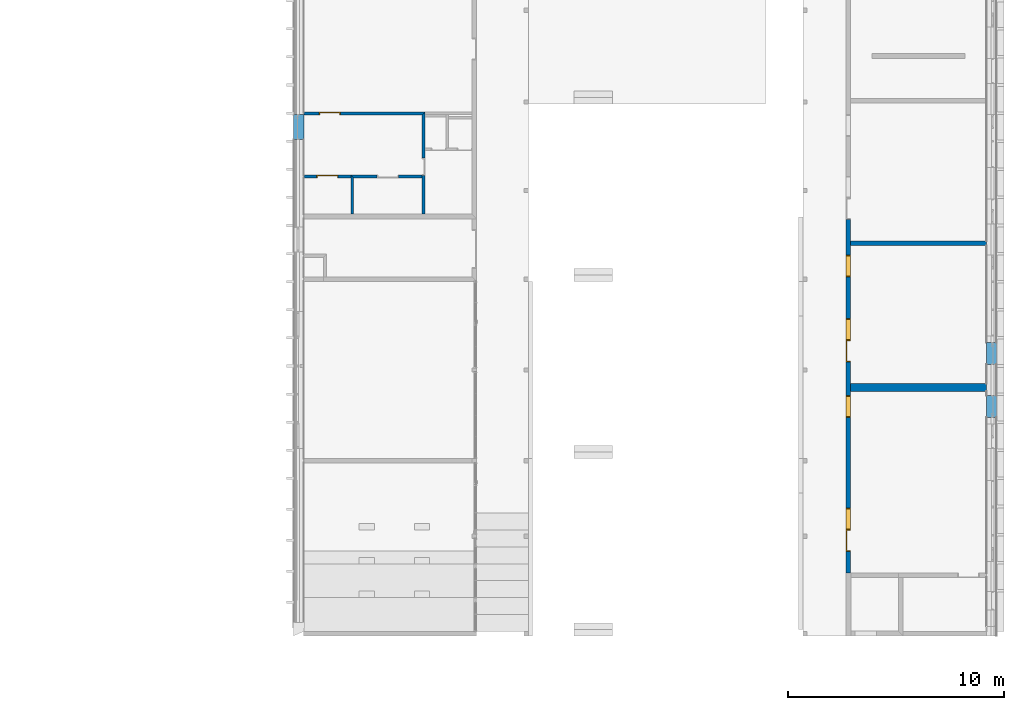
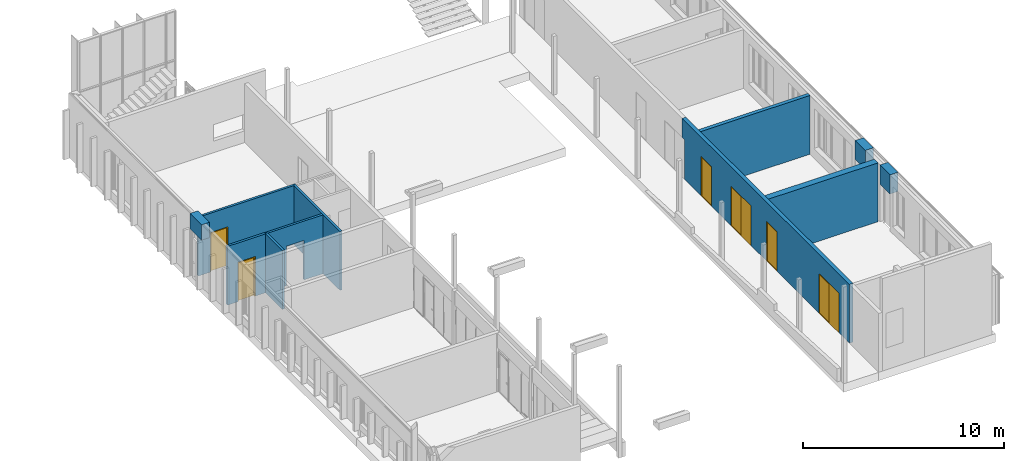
# One storey, part 9 of 65: 11 walls, 4 doors, 4 windows, 14 openings.
"""IFC2X3 building model written with IfcOpenShell, lengths in millimetres."""

import ifcopenshell
import ifcopenshell.guid

model = None  # the IFC model being written
_history = None  # IfcOwnerHistory: only IFC2X3 demands one
_inside = {}  # id of a spatial element -> (the spatial element, [elements in it])
_under = {}  # id of a project, library or spatial element -> (it, [spatial elements below it])
_declared = {}  # id of a project -> (the project, [libraries it declares])
_typed = {}  # id of a type object -> (the type object, [elements of that type])
_made_of = {}  # id of a material, layer set ... -> (it, [elements and type objects made of it])


def new_model(schema):
    """Start an empty IFC model of exactly this schema.

    Asked for "IFC4X3", IfcOpenShell would pick the latest addendum, in which some entities
    have other attributes; the version numbers below select the first issue.
    IFC2X3 requires an IfcOwnerHistory on every rooted entity: one is made here for all.
    """
    global model, _history
    if schema == "IFC4X3":
        model = ifcopenshell.file(schema_version=(4, 3, 0, 0))
    else:
        model = ifcopenshell.file(schema=schema)
    _inside.clear()
    _under.clear()
    _declared.clear()
    _typed.clear()
    _made_of.clear()
    _history = None
    if model.schema == "IFC2X3":
        org = make("IfcOrganization", Name="unknown")
        user = make(
            "IfcPersonAndOrganization",
            ThePerson=make("IfcPerson", FamilyName="unknown"),
            TheOrganization=org,
        )
        app = make(
            "IfcApplication",
            ApplicationDeveloper=org,
            Version="unknown",
            ApplicationFullName="unknown",
            ApplicationIdentifier="unknown",
        )
        _history = make(
            "IfcOwnerHistory",
            OwningUser=user,
            OwningApplication=app,
            ChangeAction="ADDED",
            CreationDate=0,
        )
    return model


def make(cls, **values):
    """One entity of the class cls with the attributes given. An attribute that is None is left unset."""
    return model.create_entity(
        cls, **{name: value for name, value in values.items() if value is not None}
    )


def entity(cls, *values):
    """Any entity or typed value of the class cls, its attributes in the order of the schema. None: left unset."""
    e = model.create_entity(cls)
    for i, value in enumerate(values):
        if value is not None:
            e[i] = value
    return e


def rooted(cls, **values):
    """An entity with a GlobalId (a new one), such as an element, a storey or a relation."""
    return make(cls, GlobalId=ifcopenshell.guid.new(), OwnerHistory=_history, **values)


def si_unit(unit_type, name, prefix=None):
    """IfcSIUnit, for example si_unit("LENGTHUNIT", "METRE", prefix="MILLI")."""
    return make("IfcSIUnit", UnitType=unit_type, Prefix=prefix, Name=name)


def converted_unit(unit_type, name, factor, base, dimensions=None, offset=None):
    """IfcConversionBasedUnit, such as the inch: factor (a typed value) times the base unit."""
    return make(
        "IfcConversionBasedUnit"
        if offset is None
        else "IfcConversionBasedUnitWithOffset",
        ConversionOffset=offset,
        Dimensions=None
        if dimensions is None
        else entity("IfcDimensionalExponents", *dimensions),
        UnitType=unit_type,
        Name=name,
        ConversionFactor=make(
            "IfcMeasureWithUnit", ValueComponent=factor, UnitComponent=base
        ),
    )


def derived_unit(unit_type, elements):
    """IfcDerivedUnit: a product of units, each with its exponent."""
    return make(
        "IfcDerivedUnit",
        Elements=[
            make("IfcDerivedUnitElement", Unit=unit, Exponent=power)
            for unit, power in elements
        ],
        UnitType=unit_type,
    )


def money_unit(currency):
    """IfcMonetaryUnit."""
    return make("IfcMonetaryUnit", Currency=currency)


def assignment(units):
    """IfcUnitAssignment: the units of a project."""
    return None if units is None else make("IfcUnitAssignment", Units=units)


def point(xyz):
    """IfcCartesianPoint."""
    return None if xyz is None else make("IfcCartesianPoint", Coordinates=xyz)


def direction(xyz):
    """IfcDirection."""
    return None if xyz is None else make("IfcDirection", DirectionRatios=xyz)


def frame(location, z_axis=None, x_axis=None):
    """IfcAxis2Placement3D, a coordinate frame: its origin and axes. An axis left out is left unset."""
    return make(
        "IfcAxis2Placement3D",
        Location=point(location),
        Axis=direction(z_axis),
        RefDirection=direction(x_axis),
    )


def frame_2d(location, x_axis=None):
    """IfcAxis2Placement2D, a coordinate frame in the plane: its origin and x axis."""
    return make(
        "IfcAxis2Placement2D", Location=point(location), RefDirection=direction(x_axis)
    )


def origin_with_axes():
    """The frame at (0, 0, 0) with the z axis (0, 0, 1) and the x axis (1, 0, 0) written out."""
    return frame((0.0, 0.0, 0.0), z_axis=(0.0, 0.0, 1.0), x_axis=(1.0, 0.0, 0.0))


def origin_2d_with_axis():
    """The frame at (0, 0) in the plane with the x axis (1, 0) written out."""
    return frame_2d((0.0, 0.0), x_axis=(1.0, 0.0))


def place(relative_to, where):
    """IfcLocalPlacement: puts the frame where relative to a parent placement (None: the world)."""
    return make(
        "IfcLocalPlacement", PlacementRelTo=relative_to, RelativePlacement=where
    )


def context(
    kind, dimensions, precision=None, world=None, true_north=None, identifier=None
):
    """IfcGeometricRepresentationContext, for example the 3D "Model" context."""
    return make(
        "IfcGeometricRepresentationContext",
        ContextIdentifier=identifier,
        ContextType=kind,
        CoordinateSpaceDimension=dimensions,
        Precision=precision,
        WorldCoordinateSystem=world,
        TrueNorth=true_north,
    )


def subcontext(parent, identifier, kind, view, scale=None):
    """IfcGeometricRepresentationSubContext, for example "Body" below "Model"."""
    return make(
        "IfcGeometricRepresentationSubContext",
        ContextIdentifier=identifier,
        ContextType=kind,
        ParentContext=parent,
        TargetScale=scale,
        TargetView=view,
    )


def project(units=None, contexts=None):
    """IfcProject with its units and contexts."""
    return rooted(
        "IfcProject",
        Name="project",
        RepresentationContexts=contexts,
        UnitsInContext=assignment(units),
    )


def spatial(cls, under=None, at=None, **own):
    """A site, building, storey or space (cls), placed at a placement, below another one or the project."""
    s = rooted(cls, ObjectPlacement=at, **own)
    if under is not None:
        _under.setdefault(under.id(), (under, []))[1].append(s)
    return s


def polyline(points):
    """IfcPolyline through the points."""
    return make("IfcPolyline", Points=[point(p) for p in points])


def profile(cls, at=None, kind="AREA", **sizes):
    """A parametric profile (cls). Its sizes go by their IFC names, for example OverallWidth=200.0."""
    return make(cls, ProfileType=kind, Position=at, **sizes)


def rectangle(**sizes):
    """IfcRectangleProfileDef."""
    return profile("IfcRectangleProfileDef", **sizes)


def outline(outer, holes=None, kind="AREA"):
    """IfcArbitraryClosedProfileDef: a profile drawn as a closed curve; with holes, ...WithVoids."""
    if holes is None:
        return make("IfcArbitraryClosedProfileDef", ProfileType=kind, OuterCurve=outer)
    return make(
        "IfcArbitraryProfileDefWithVoids",
        ProfileType=kind,
        OuterCurve=outer,
        InnerCurves=holes,
    )


def extrude(swept, where, along, depth):
    """IfcExtrudedAreaSolid: the profile swept, set in the frame where, extruded along a direction by depth."""
    return make(
        "IfcExtrudedAreaSolid",
        SweptArea=swept,
        Position=where,
        ExtrudedDirection=direction(along),
        Depth=depth,
    )


def faces_of(points, faces, orient=None, outer=None):
    """IfcFace entities. A face is a list of loops; a loop is a list of indices into points, from 0.

    orient and outer hold one flag for each loop. By default every Orientation is true, the
    first loop of a face is its IfcFaceOuterBound and the others are IfcFaceBound.
    """
    made = []
    for i, loops in enumerate(faces):
        bounds = []
        for j, loop in enumerate(loops):
            is_outer = j == 0 if outer is None else outer[i][j]
            bounds.append(
                make(
                    "IfcFaceOuterBound" if is_outer else "IfcFaceBound",
                    Bound=make("IfcPolyLoop", Polygon=[points[k] for k in loop]),
                    Orientation=True if orient is None else orient[i][j],
                )
            )
        made.append(make("IfcFace", Bounds=bounds))
    return made


def open_shell(faces, orient=None, outer=None):
    """The faces of one IfcOpenShell. surface_model builds it on its shared points."""
    return ("IfcOpenShell", faces, orient, outer)


def faceted_brep(points, faces, orient=None, outer=None, voids=None):
    """IfcFacetedBrep: a solid bounded by flat faces; with voids (closed shells), ...WithVoids."""
    shared = [point(p) for p in points]
    hull = make("IfcClosedShell", CfsFaces=faces_of(shared, faces, orient, outer))
    if voids is None:
        return make("IfcFacetedBrep", Outer=hull)
    return make(
        "IfcFacetedBrepWithVoids",
        Outer=hull,
        Voids=[
            make(cls, CfsFaces=faces_of(shared, fs, o, b)) for cls, fs, o, b in voids
        ],
    )


def surface_model(cls, points, shells):
    """IfcFaceBasedSurfaceModel or IfcShellBasedSurfaceModel (cls): surfaces that need not close."""
    shared = [point(p) for p in points]
    made = [make(c, CfsFaces=faces_of(shared, fs, o, b)) for c, fs, o, b in shells]
    if cls == "IfcFaceBasedSurfaceModel":
        return make(cls, FbsmFaces=made)
    return make(cls, SbsmBoundary=made)


def shape(context_of_items, identifier, shape_type, items):
    """IfcShapeRepresentation: the items that make up one representation, for example the "Body"."""
    return make(
        "IfcShapeRepresentation",
        ContextOfItems=context_of_items,
        RepresentationIdentifier=identifier,
        RepresentationType=shape_type,
        Items=items,
    )


def source(mapping_origin, context_of_items, identifier, shape_type, items):
    """IfcRepresentationMap: a shape defined once, which mapped items show again and again."""
    return make(
        "IfcRepresentationMap",
        MappingOrigin=mapping_origin,
        MappedRepresentation=shape(context_of_items, identifier, shape_type, items),
    )


def transform(
    local_origin,
    x_axis=None,
    y_axis=None,
    z_axis=None,
    scale=None,
    scale2=None,
    scale3=None,
    uniform=True,
):
    """IfcCartesianTransformationOperator3D, or its non-uniform kind. x_axis, y_axis, z_axis: its Axis1, 2, 3."""
    if uniform:
        return make(
            "IfcCartesianTransformationOperator3D",
            Axis1=direction(x_axis),
            Axis2=direction(y_axis),
            LocalOrigin=point(local_origin),
            Scale=scale,
            Axis3=direction(z_axis),
        )
    return make(
        "IfcCartesianTransformationOperator3DnonUniform",
        Axis1=direction(x_axis),
        Axis2=direction(y_axis),
        LocalOrigin=point(local_origin),
        Scale=scale,
        Axis3=direction(z_axis),
        Scale2=scale2,
        Scale3=scale3,
    )


def mapped(mapping_source, mapping_target):
    """IfcMappedItem: shows the shape of a source again, moved by a transform."""
    return make(
        "IfcMappedItem", MappingSource=mapping_source, MappingTarget=mapping_target
    )


def material(Name=None, Category=None):
    """IfcMaterial."""
    return make("IfcMaterial", Name=Name, Category=Category)


def layer(
    of_material, thickness, ventilated=None, Name=None, Category=None, Priority=None
):
    """IfcMaterialLayer: one layer of a wall or slab, of a material (None: an air gap)."""
    return make(
        "IfcMaterialLayer",
        Material=of_material,
        LayerThickness=thickness,
        IsVentilated=ventilated,
        Name=Name,
        Category=Category,
        Priority=Priority,
    )


def layer_set(layers, Name=None):
    """IfcMaterialLayerSet."""
    return make("IfcMaterialLayerSet", MaterialLayers=layers, LayerSetName=Name)


def layer_usage(for_layer_set, set_direction, sense, offset, extent=None):
    """IfcMaterialLayerSetUsage: how a layer set lies in its element."""
    return make(
        "IfcMaterialLayerSetUsage",
        ForLayerSet=for_layer_set,
        LayerSetDirection=set_direction,
        DirectionSense=sense,
        OffsetFromReferenceLine=offset,
        ReferenceExtent=extent,
    )


def made_of(thing, what):
    """Note that an element or type object is made of a material, layer set ...; save() writes the relation."""
    if what is not None:
        _made_of.setdefault(what.id(), (what, []))[1].append(thing)
    return thing


def type_object(cls, material=None, **own):
    """A type object (cls), such as IfcWallType, which elements share."""
    return made_of(rooted(cls, **own), material)


def element(
    cls,
    number,
    at=None,
    inside=None,
    cuts=None,
    type_object=None,
    material=None,
    context=None,
    identifier="Body",
    shape_type=None,
    held_by="IfcProductDefinitionShape",
    body=None,
    shapes=None,
    **own,
):
    """One element of the class cls, such as IfcWall. Its Tag is "e" and its number.

    at: its placement. inside: the storey or other place that contains it. cuts: it is an
    opening in that element (IfcRelVoidsElement). A single representation is given by context,
    identifier, shape_type and body (its items); several are given by shapes. held_by: the class
    of the entity that holds the representations. save() writes the other relations.
    """
    e = rooted(cls, Tag="e%d" % number, ObjectPlacement=at, **own)
    if body is not None:
        shapes = [shape(context, identifier, shape_type, body)]
    if shapes is not None:
        e.Representation = make(held_by, Representations=shapes)
    if inside is not None:
        _inside.setdefault(inside.id(), (inside, []))[1].append(e)
    if cuts is not None:
        rooted(
            "IfcRelVoidsElement", RelatingBuildingElement=cuts, RelatedOpeningElement=e
        )
    if type_object is not None:
        _typed.setdefault(type_object.id(), (type_object, []))[1].append(e)
    return made_of(e, material)


def fill(opening, filler):
    """IfcRelFillsElement: the door or window that sits in an opening."""
    return rooted(
        "IfcRelFillsElement",
        RelatingOpeningElement=opening,
        RelatedBuildingElement=filler,
    )


def aggregate(whole, parts):
    """IfcRelAggregates: a whole, such as a stair, and the parts it consists of."""
    return rooted("IfcRelAggregates", RelatingObject=whole, RelatedObjects=parts)


def save(model, path):
    """Write the relations noted so far, then the file.

    IfcRelAggregates (storeys below a building ...), IfcRelContainedInSpatialStructure (elements
    in a storey), IfcRelDefinesByType, IfcRelAssociatesMaterial and IfcRelDeclares: one each for
    every whole, place, type object, material and project.
    """
    for whole, parts in _under.values():
        aggregate(whole, parts)
    for where, things in _inside.values():
        rooted(
            "IfcRelContainedInSpatialStructure",
            RelatedElements=things,
            RelatingStructure=where,
        )
    for kind, things in _typed.values():
        rooted("IfcRelDefinesByType", RelatedObjects=things, RelatingType=kind)
    for what, things in _made_of.values():
        rooted("IfcRelAssociatesMaterial", RelatedObjects=things, RelatingMaterial=what)
    for by, libraries in _declared.values():
        rooted("IfcRelDeclares", RelatingContext=by, RelatedDefinitions=libraries)
    model.write(path)


model = new_model("IFC2X3")

# Units and contexts
model_context = context("Model", 3, precision=0.01, world=origin_with_axes(), true_north=direction((0.0, 1.0)))
body_context = subcontext(model_context, "Body", "Model", "MODEL_VIEW")
ifc_project = project(units=[si_unit("LENGTHUNIT", "METRE", prefix="MILLI"), si_unit("AREAUNIT", "SQUARE_METRE"), si_unit("VOLUMEUNIT", "CUBIC_METRE"), converted_unit("PLANEANGLEUNIT", "DEGREE", entity("IfcPlaneAngleMeasure", 0.0174532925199), si_unit("PLANEANGLEUNIT", "RADIAN"), dimensions=[0, 0, 0, 0, 0, 0, 0]), si_unit("SOLIDANGLEUNIT", "STERADIAN"), money_unit("EUR"), converted_unit("TIMEUNIT", "Year", entity("IfcTimeMeasure", 31556926.0), si_unit("TIMEUNIT", "SECOND"), dimensions=[0, 0, 1, 0, 0, 0, 0]), si_unit("MASSUNIT", "GRAM", prefix="KILO"), si_unit("THERMODYNAMICTEMPERATUREUNIT", "DEGREE_CELSIUS"), si_unit("LUMINOUSINTENSITYUNIT", "LUMEN"), si_unit("ENERGYUNIT", "JOULE", prefix="MEGA"), derived_unit("THERMALCONDUCTANCEUNIT", [(si_unit("POWERUNIT", "WATT"), 1), (si_unit("LENGTHUNIT", "METRE"), -1), (si_unit("THERMODYNAMICTEMPERATUREUNIT", "KELVIN"), -1)]), derived_unit("SPECIFICHEATCAPACITYUNIT", [(si_unit("ENERGYUNIT", "JOULE"), 1), (si_unit("MASSUNIT", "GRAM", prefix="KILO"), -1), (si_unit("THERMODYNAMICTEMPERATUREUNIT", "KELVIN"), -1)]), derived_unit("MASSDENSITYUNIT", [(si_unit("MASSUNIT", "GRAM", prefix="KILO"), 1), (si_unit("VOLUMEUNIT", "CUBIC_METRE"), -1)])], contexts=[model_context])

# Site, building, storey
site_placement = place(None, origin_with_axes())
site = spatial("IfcSite", under=ifc_project, at=site_placement, Name="Puškini 31, Narva", CompositionType="ELEMENT")
building_placement = place(site_placement, origin_with_axes())
building = spatial("IfcBuilding", under=site, at=building_placement, Name="Narva Riigigümnaasium", CompositionType="ELEMENT")
storey_placement = place(building_placement, frame((0.0, 0.0, -1320.0), z_axis=(0.0, 0.0, 1.0), x_axis=(1.0, 0.0, 0.0)))
storey = spatial("IfcBuildingStorey", under=building, at=storey_placement, Name="1.korrus -1.32", CompositionType="ELEMENT", Elevation=-1320.0)

# Wall, opening
ifc_material_1 = material(Name="fassaadiplaat")
ifc_layer_1 = layer(ifc_material_1, 8.0, ventilated="UNKNOWN")
ifc_material_2 = material(Name="Salto-roovitus")
ifc_layer_2 = layer(ifc_material_2, 50.0, ventilated="UNKNOWN")
ifc_material_3 = material(Name="Salto-PIR soojustus")
ifc_layer_3 = layer(ifc_material_3, 50.0, ventilated="UNKNOWN")
ifc_layer_4 = layer(ifc_material_3, 150.0, ventilated="UNKNOWN")
ifc_material_4 = material(Name="Betoon element")
ifc_layer_5 = layer(ifc_material_4, 200.0, ventilated="UNKNOWN")
ifc_material_5 = material(Name="Salto-siseviimistlus-seinad")
ifc_layer_6 = layer(ifc_material_5, 10.0, ventilated="UNKNOWN")
ifc_layer_set_1 = layer_set([ifc_layer_1, ifc_layer_2, ifc_layer_3, ifc_layer_4, ifc_layer_5, ifc_layer_6], Name="G-VS-01")
ifc_layer_usage_1 = layer_usage(ifc_layer_set_1, "AXIS2", "NEGATIVE", 458.0)
wall_type_1 = type_object("IfcWallType", Name="G-VS-01 468", PredefinedType="NOTDEFINED")
wall_1_placement = place(storey_placement, frame((54000.000001, 170110.151272, 0.0), z_axis=(0.0, 0.0, 1.0), x_axis=(0.0, -1.0, 0.0)))
wall_1 = element("IfcWallStandardCase", 1, at=wall_1_placement, inside=storey, type_object=wall_type_1, material=ifc_layer_usage_1, Name="Välissein", context=body_context, shape_type="SweptSolid", body=[
    extrude(outline(polyline([(0.0, -10.0), (1000.0, -10.0), (1000.0, 458.0), (0.0, 458.0), (0.0, -10.0)])), origin_with_axes(), (0.0, 0.0, 1.0), 3559.82248474),
])
opening_1_placement = place(wall_1_placement, frame((500.0, 0.0, 0.0), z_axis=(0.0, 0.0, 1.0), x_axis=(1.0, 0.0, 0.0)))
element("IfcOpeningElement", 2, at=opening_1_placement, cuts=wall_1, Name="G-VU-05", context=body_context, shape_type="SweptSolid", body=[
    extrude(rectangle(XDim=1000.0, YDim=2400.0, at=origin_2d_with_axis()), frame((0.0, 308.0, 1200.0), z_axis=(0.0, -1.0, 0.0), x_axis=(-1.0, 0.0, 0.0)), (0.0, 0.0, 1.0), 786.0),
    extrude(rectangle(XDim=1000.0, YDim=2400.0, at=origin_2d_with_axis()), frame((0.0, 308.0, 1200.0), z_axis=(0.0, 1.0, 0.0), x_axis=(-1.0, 0.0, 0.0)), (0.0, 0.0, 1.0), 618.0),
])

wall_2_placement = place(storey_placement, frame((54000.000001, 172560.151272, 0.0), z_axis=(0.0, 0.0, 1.0), x_axis=(0.0, -1.0, 0.0)))
wall_2 = element("IfcWallStandardCase", 3, at=wall_2_placement, inside=storey, type_object=wall_type_1, material=ifc_layer_usage_1, Name="Välissein", context=body_context, shape_type="SweptSolid", body=[
    extrude(outline(polyline([(0.0, -10.0), (1000.0, -10.0), (1000.0, 458.0), (0.0, 458.0), (0.0, -10.0)])), origin_with_axes(), (0.0, 0.0, 1.0), 3559.82248474),
])
opening_2_placement = place(wall_2_placement, frame((500.0, 0.0, 0.0), z_axis=(0.0, 0.0, 1.0), x_axis=(1.0, 0.0, 0.0)))
element("IfcOpeningElement", 4, at=opening_2_placement, cuts=wall_2, Name="G-VU-04", context=body_context, shape_type="SweptSolid", body=[
    extrude(rectangle(XDim=1000.0, YDim=2400.0, at=origin_2d_with_axis()), frame((0.0, 308.0, 1200.0), z_axis=(0.0, 1.0, 0.0), x_axis=(1.0, 0.0, 0.0)), (0.0, 0.0, -1.0), 786.0),
    extrude(rectangle(XDim=1000.0, YDim=2400.0, at=origin_2d_with_axis()), frame((0.0, 308.0, 1200.0), z_axis=(0.0, -1.0, 0.0), x_axis=(1.0, 0.0, 0.0)), (0.0, 0.0, -1.0), 618.0),
])

wall_3_placement = place(storey_placement, frame((22399.9999985, 181960.149991, 0.0), z_axis=(0.0, 0.0, 1.0), x_axis=(0.0, 1.0, 0.0)))
wall_3 = element("IfcWallStandardCase", 5, at=wall_3_placement, inside=storey, type_object=wall_type_1, material=ifc_layer_usage_1, Name="Välissein", context=body_context, shape_type="SweptSolid", body=[
    extrude(outline(polyline([(0.0, -10.0), (1150.0, -10.0), (1150.0, 458.0), (0.0, 458.0), (0.0, -10.0)])), origin_with_axes(), (0.0, 0.0, 1.0), 3960.0),
])
opening_3_placement = place(wall_3_placement, frame((575.0, 0.0, 0.0), z_axis=(0.0, 0.0, 1.0), x_axis=(1.0, 0.0, 0.0)))
element("IfcOpeningElement", 6, at=opening_3_placement, cuts=wall_3, Name="G-VU-06", context=body_context, shape_type="SweptSolid", body=[
    extrude(rectangle(XDim=1150.0, YDim=3030.0, at=origin_2d_with_axis()), frame((0.0, 308.0, 1515.0), z_axis=(0.0, -1.0, 0.0), x_axis=(-1.0, 0.0, 0.0)), (0.0, 0.0, 1.0), 786.0),
    extrude(rectangle(XDim=1150.0, YDim=3030.0, at=origin_2d_with_axis()), frame((0.0, 308.0, 1515.0), z_axis=(0.0, 1.0, 0.0), x_axis=(-1.0, 0.0, 0.0)), (0.0, 0.0, 1.0), 618.0),
])

# Wall, openings, windows, doors
ifc_material_6 = material(Name="siseviimistlus-seinad")
ifc_layer_7 = layer(ifc_material_6, 10.0, ventilated="UNKNOWN")
ifc_layer_set_2 = layer_set([ifc_layer_5, ifc_layer_7], Name="G-SS-01-02")
ifc_layer_usage_2 = layer_usage(ifc_layer_set_2, "AXIS2", "POSITIVE", 0.0)
wall_type_2 = type_object("IfcWallType", Name="G-SS-01-02 210", PredefinedType="NOTDEFINED")
wall_4_placement = place(storey_placement, frame((47499.9999944, 178500.00001, 0.0), z_axis=(0.0, 0.0, 1.0), x_axis=(0.0, -1.0, 0.0)))
wall_4 = element("IfcWallStandardCase", 7, at=wall_4_placement, inside=storey, type_object=wall_type_2, material=ifc_layer_usage_2, Name="Sisesein", context=body_context, shape_type="SweptSolid", body=[
    extrude(outline(polyline([(0.0, 0.0), (16600.0000105, 0.0), (16600.0000105, 210.0), (0.0, 210.0), (0.0, 0.0)])), origin_with_axes(), (0.0, 0.0, 1.0), 3565.0),
])
opening_4_placement = place(wall_4_placement, frame((2389.89562229, 0.0, 0.0), z_axis=(0.0, 0.0, 1.0), x_axis=(1.0, 0.0, 0.0)))
opening_4 = element("IfcOpeningElement", 8, at=opening_4_placement, cuts=wall_4, Name="G-SA-2", context=body_context, shape_type="SweptSolid", body=[
    extrude(rectangle(XDim=1000.0, YDim=2400.0, at=origin_2d_with_axis()), frame((0.0, 210.0, 1200.0), z_axis=(0.0, -1.0, 0.0), x_axis=(-1.0, 0.0, 0.0)), (0.0, 0.0, 1.0), 630.0),
])
opening_5_placement = place(wall_4_placement, frame((14090.0000105, 0.0, 0.0), z_axis=(0.0, 0.0, 1.0), x_axis=(1.0, 0.0, 0.0)))
opening_5 = element("IfcOpeningElement", 9, at=opening_5_placement, cuts=wall_4, Name="G-SA-3", context=body_context, shape_type="SweptSolid", body=[
    extrude(rectangle(XDim=1000.0, YDim=2400.0, at=origin_2d_with_axis()), frame((0.0, 210.0, 1200.0), z_axis=(0.0, -1.0, 0.0), x_axis=(-1.0, 0.0, 0.0)), (0.0, 0.0, 1.0), 630.0),
])
opening_6_placement = place(wall_4_placement, frame((8889.84873854, 0.0, 0.0), z_axis=(0.0, 0.0, 1.0), x_axis=(1.0, 0.0, 0.0)))
opening_6 = element("IfcOpeningElement", 10, at=opening_6_placement, cuts=wall_4, Name="G-SA-3", context=body_context, shape_type="SweptSolid", body=[
    extrude(rectangle(XDim=1000.0, YDim=2400.0, at=origin_2d_with_axis()), frame((0.0, 210.0, 1200.0), z_axis=(0.0, -1.0, 0.0), x_axis=(-1.0, 0.0, 0.0)), (0.0, 0.0, 1.0), 630.0),
])
opening_7_placement = place(wall_4_placement, frame((5330.00002569, 0.0, 0.0), z_axis=(0.0, 0.0, 1.0), x_axis=(1.0, 0.0, 0.0)))
opening_7 = element("IfcOpeningElement", 11, at=opening_7_placement, cuts=wall_4, Name="G-SA-2", context=body_context, shape_type="SweptSolid", body=[
    extrude(rectangle(XDim=1000.0, YDim=2400.0, at=origin_2d_with_axis()), frame((0.0, 210.0, 1200.0), z_axis=(0.0, -1.0, 0.0), x_axis=(-1.0, 0.0, 0.0)), (0.0, 0.0, 1.0), 630.0),
])
opening_8_placement = place(wall_4_placement, frame((15090.0000105, 0.0, 0.0), z_axis=(0.0, 0.0, 1.0), x_axis=(1.0, 0.0, 0.0)))
opening_8 = element("IfcOpeningElement", 12, at=opening_8_placement, cuts=wall_4, Name="G-SU-013", context=body_context, shape_type="SweptSolid", body=[
    extrude(rectangle(XDim=1000.0, YDim=2400.0, at=origin_2d_with_axis()), frame((0.0, 210.0, 1200.0), z_axis=(0.0, -1.0, 0.0), x_axis=(-1.0, 0.0, 0.0)), (0.0, 0.0, 1.0), 630.0),
])
opening_9_placement = place(wall_4_placement, frame((6330.00002569, 0.0, 0.0), z_axis=(0.0, 0.0, 1.0), x_axis=(1.0, 0.0, 0.0)))
opening_9 = element("IfcOpeningElement", 13, at=opening_9_placement, cuts=wall_4, Name="G-SU-012", context=body_context, shape_type="SweptSolid", body=[
    extrude(rectangle(XDim=1000.0, YDim=2400.0, at=origin_2d_with_axis()), frame((0.0, 210.0, 1200.0), z_axis=(0.0, -1.0, 0.0), x_axis=(-1.0, 0.0, 0.0)), (0.0, 0.0, 1.0), 630.0),
])
opening_10_placement = place(wall_4_placement, frame((-259.999974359, 0.0, 0.0), z_axis=(0.0, 0.0, 1.0), x_axis=(1.0, 0.0, 0.0)))
element("IfcOpeningElement", 14, at=opening_10_placement, cuts=wall_4, Name="ava", context=body_context, shape_type="SweptSolid", body=[
    extrude(rectangle(XDim=1000.0, YDim=2400.0, at=origin_2d_with_axis()), frame((0.0, 0.0, 1200.0), z_axis=(0.0, 1.0, 0.0), x_axis=(1.0, 0.0, 0.0)), (0.0, 0.0, -1.0), 210.0),
    extrude(rectangle(XDim=1000.0, YDim=2400.0, at=origin_2d_with_axis()), frame((0.0, 0.0, 1200.0), z_axis=(0.0, -1.0, 0.0), x_axis=(1.0, 0.0, 0.0)), (0.0, 0.0, -1.0), 210.0),
])
window_style = type_object("IfcWindowStyle", Name="Window 23", ConstructionType="NOTDEFINED", OperationType="SINGLE_PANEL", ParameterTakesPrecedence=False, Sizeable=False)
shared_shape_1 = source(origin_with_axes(), body_context, "Body", "SurfaceModel", [
    faceted_brep([(-460.0, -210.0, 2360.0), (-460.0, 0.0, 2360.0), (-500.0, 0.0, 2360.0), (-500.0, -210.0, 2360.0), (-460.0, -210.0, 40.0), (-460.0, 0.0, 40.0), (-500.0, 0.0, 40.0), (-500.0, -210.0, 40.0)], [[[0, 1, 2, 3]], [[4, 5, 1, 0]], [[1, 5, 6, 2]], [[3, 2, 6, 7]], [[0, 3, 7, 4]], [[7, 6, 5, 4]]]),
    faceted_brep([(460.0, -210.0, 40.0), (460.0, 0.0, 40.0), (500.0, 0.0, 40.0), (500.0, -210.0, 40.0), (460.0, -210.0, 2360.0), (460.0, 0.0, 2360.0), (500.0, 0.0, 2360.0), (500.0, -210.0, 2360.0)], [[[0, 1, 2, 3]], [[4, 5, 1, 0]], [[1, 5, 6, 2]], [[3, 2, 6, 7]], [[0, 3, 7, 4]], [[7, 6, 5, 4]]]),
    faceted_brep([(-460.0, -210.0, 40.0), (-460.0, 0.0, 40.0), (-500.0, 0.0, 40.0), (-500.0, -210.0, 40.0), (460.0, -210.0, 40.0), (460.0, 0.0, 40.0), (500.0, 0.0, 40.0), (500.0, 0.0, 0.0), (-500.0, 0.0, 0.0), (-500.0, -210.0, 0.0), (500.0, -210.0, 0.0), (500.0, -210.0, 40.0)], [[[0, 1, 2, 3]], [[4, 5, 1, 0]], [[1, 5, 6, 7, 8, 2]], [[3, 2, 8, 9]], [[0, 3, 9, 10, 11, 4]], [[11, 6, 5, 4]], [[10, 7, 6, 11]], [[9, 8, 7, 10]]]),
    faceted_brep([(460.0, -210.0, 2360.0), (460.0, 0.0, 2360.0), (500.0, 0.0, 2360.0), (500.0, -210.0, 2360.0), (-460.0, -210.0, 2360.0), (-460.0, 0.0, 2360.0), (-500.0, 0.0, 2360.0), (-500.0, 0.0, 2400.0), (500.0, 0.0, 2400.0), (500.0, -210.0, 2400.0), (-500.0, -210.0, 2400.0), (-500.0, -210.0, 2360.0)], [[[0, 1, 2, 3]], [[4, 5, 1, 0]], [[1, 5, 6, 7, 8, 2]], [[3, 2, 8, 9]], [[0, 3, 9, 10, 11, 4]], [[11, 6, 5, 4]], [[10, 7, 6, 11]], [[9, 8, 7, 10]]]),
    surface_model("IfcShellBasedSurfaceModel", [(-460.0, -35.0, 40.0), (460.0, -35.0, 40.0), (460.0, -35.0, 2360.0), (-460.0, -35.0, 2360.0)], [open_shell([[[0, 1, 2, 3]]])]),
    surface_model("IfcShellBasedSurfaceModel", [(-460.0, -15.0, 40.0), (-460.0, -15.0, 2360.0), (460.0, -15.0, 2360.0), (460.0, -15.0, 40.0)], [open_shell([[[0, 1, 2, 3]]])]),
])
window_1_placement = place(opening_4_placement, frame((500.0, 0.0, 0.0), z_axis=(0.0, 0.0, 1.0), x_axis=(-1.0, 0.0, 0.0)))
window_1 = element("IfcWindow", 15, at=window_1_placement, inside=storey, type_object=window_style, Name="G-SA-2", ObjectType="WINDOW", OverallHeight=2400.0, OverallWidth=1000.0, context=body_context, shape_type="MappedRepresentation", body=[
    mapped(shared_shape_1, transform((500.0, 0.0, 0.0))),
])
fill(opening_4, window_1)
window_2_placement = place(opening_5_placement, frame((500.0, 0.0, 0.0), z_axis=(0.0, 0.0, 1.0), x_axis=(-1.0, 0.0, 0.0)))
window_2 = element("IfcWindow", 16, at=window_2_placement, inside=storey, type_object=window_style, Name="G-SA-3", ObjectType="WINDOW", OverallHeight=2400.0, OverallWidth=1000.0, context=body_context, shape_type="MappedRepresentation", body=[
    mapped(shared_shape_1, transform((500.0, 0.0, 0.0))),
])
fill(opening_5, window_2)
window_3_placement = place(opening_6_placement, frame((500.0, 0.0, 0.0), z_axis=(0.0, 0.0, 1.0), x_axis=(-1.0, 0.0, 0.0)))
window_3 = element("IfcWindow", 17, at=window_3_placement, inside=storey, type_object=window_style, Name="G-SA-3", ObjectType="WINDOW", OverallHeight=2400.0, OverallWidth=1000.0, context=body_context, shape_type="MappedRepresentation", body=[
    mapped(shared_shape_1, transform((500.0, 0.0, 0.0))),
])
fill(opening_6, window_3)
window_4_placement = place(opening_7_placement, frame((500.0, 0.0, 0.0), z_axis=(0.0, 0.0, 1.0), x_axis=(-1.0, 0.0, 0.0)))
window_4 = element("IfcWindow", 18, at=window_4_placement, inside=storey, type_object=window_style, Name="G-SA-2", ObjectType="WINDOW", OverallHeight=2400.0, OverallWidth=1000.0, context=body_context, shape_type="MappedRepresentation", body=[
    mapped(shared_shape_1, transform((500.0, 0.0, 0.0))),
])
fill(opening_7, window_4)
door_style_1 = type_object("IfcDoorStyle", Name="Door 23", ConstructionType="NOTDEFINED", OperationType="SINGLE_SWING_RIGHT", ParameterTakesPrecedence=False, Sizeable=False)
shared_shape_2 = source(origin_with_axes(), body_context, "Body", "Brep", [
    faceted_brep([(-460.0, -40.0, 0.0), (-460.0, -40.0, 2360.0), (-460.0, -210.0, 2360.0), (-460.0, -210.0, 0.0), (-472.0, -40.0, 2360.0), (-472.0, -40.0, 0.0), (-472.0, 0.0, 2360.0), (-500.0, 0.0, 2360.0), (-500.0, -210.0, 2360.0), (-500.0, -210.0, 0.0), (-500.0, 0.0, 0.0), (-472.0, 0.0, 0.0)], [[[0, 1, 2, 3]], [[4, 1, 0, 5]], [[4, 6, 7, 8, 2, 1]], [[3, 2, 8, 9]], [[5, 0, 3, 9, 10, 11]], [[6, 4, 5, 11]], [[6, 11, 10, 7]], [[10, 9, 8, 7]]]),
    faceted_brep([(472.0, -40.0, 2360.0), (460.0, -40.0, 2360.0), (460.0, -210.0, 2360.0), (500.0, -210.0, 2360.0), (500.0, 0.0, 2360.0), (472.0, 0.0, 2360.0), (472.0, -40.0, 0.0), (460.0, -40.0, 0.0), (460.0, -210.0, 0.0), (500.0, -210.0, 0.0), (500.0, 0.0, 0.0), (472.0, 0.0, 0.0)], [[[0, 1, 2, 3, 4, 5]], [[1, 0, 6, 7]], [[1, 7, 8, 2]], [[3, 2, 8, 9]], [[4, 3, 9, 10]], [[11, 5, 4, 10]], [[0, 5, 11, 6]], [[6, 11, 10, 9, 8, 7]]]),
    faceted_brep([(-472.0, 0.0, 2372.0), (-472.0, 0.0, 2360.0), (-500.0, 0.0, 2360.0), (-500.0, 0.0, 2400.0), (500.0, 0.0, 2400.0), (500.0, 0.0, 2360.0), (472.0, 0.0, 2360.0), (472.0, 0.0, 2372.0), (-472.0, -40.0, 2372.0), (-472.0, -40.0, 2360.0), (-460.0, -40.0, 2360.0), (-460.0, -210.0, 2360.0), (-500.0, -210.0, 2360.0), (-500.0, -210.0, 2400.0), (500.0, -210.0, 2400.0), (500.0, -210.0, 2360.0), (472.0, -40.0, 2360.0), (460.0, -210.0, 2360.0), (460.0, -40.0, 2360.0), (472.0, -40.0, 2372.0)], [[[0, 1, 2, 3, 4, 5, 6, 7]], [[1, 0, 8, 9]], [[9, 10, 11, 12, 2, 1]], [[2, 12, 13, 3]], [[3, 13, 14, 4]], [[4, 14, 15, 5]], [[16, 6, 5, 15, 17, 18]], [[7, 6, 16, 19]], [[0, 7, 19, 8]], [[16, 18, 10, 9, 8, 19]], [[10, 18, 17, 11]], [[17, 15, 14, 13, 12, 11]]]),
    faceted_brep([(472.0, 0.0, 0.0), (472.0, -40.0, 0.0), (-472.0, -40.0, 0.0), (-472.0, 0.0, 0.0), (472.0, 0.0, 2372.0), (472.0, -40.0, 2372.0), (-472.0, -40.0, 2372.0), (-472.0, 0.0, 2372.0)], [[[0, 1, 2, 3]], [[4, 5, 1, 0]], [[1, 5, 6, 2]], [[3, 2, 6, 7]], [[0, 3, 7, 4]], [[7, 6, 5, 4]]]),
])
door_1_placement = place(opening_8_placement, frame((500.0, 0.0, 0.0), z_axis=(0.0, 0.0, 1.0), x_axis=(-1.0, 0.0, 0.0)))
door_1 = element("IfcDoor", 19, at=door_1_placement, inside=storey, type_object=door_style_1, Name="G-SU-013", ObjectType="DOOR", OverallHeight=2400.0, OverallWidth=1000.0, context=body_context, shape_type="MappedRepresentation", body=[
    mapped(shared_shape_2, transform((500.0, 0.0, 0.0))),
])
fill(opening_8, door_1)
door_2_placement = place(opening_9_placement, frame((500.0, 0.0, 0.0), z_axis=(0.0, 0.0, 1.0), x_axis=(-1.0, 0.0, 0.0)))
door_2 = element("IfcDoor", 20, at=door_2_placement, inside=storey, type_object=door_style_1, Name="G-SU-012", ObjectType="DOOR", OverallHeight=2400.0, OverallWidth=1000.0, context=body_context, shape_type="MappedRepresentation", body=[
    mapped(shared_shape_2, transform((500.0, 0.0, 0.0))),
])
fill(opening_9, door_2)

# Wall
wall_5_placement = place(storey_placement, frame((47499.9999944, 177049.999985, 0.0), z_axis=(0.0, 0.0, 1.0), x_axis=(1.0, 0.0, 0.0)))
element("IfcWallStandardCase", 21, at=wall_5_placement, inside=storey, type_object=wall_type_2, material=ifc_layer_usage_2, Name="Sisesein", context=body_context, shape_type="SweptSolid", body=[
    extrude(outline(polyline([(210.0, 0.0), (6490.00000661, 0.0), (6490.00000661, 210.0), (210.0, 210.0), (210.0, 0.0)])), origin_with_axes(), (0.0, 0.0, 1.0), 3565.0),
])

# Wall, opening
ifc_layer_8 = layer(ifc_material_6, 15.0, ventilated="UNKNOWN")
ifc_material_7 = material(Name="kergbetoonplokk")
ifc_layer_9 = layer(ifc_material_7, 100.0, ventilated="UNKNOWN")
ifc_layer_set_3 = layer_set([ifc_layer_8, ifc_layer_9, ifc_layer_8], Name="G-SS-05-03")
ifc_layer_usage_3 = layer_usage(ifc_layer_set_3, "AXIS2", "NEGATIVE", 15.0)
wall_type_3 = type_object("IfcWallType", Name="G-SS-05-03 130", PredefinedType="NOTDEFINED")
wall_6_placement = place(storey_placement, frame((27999.9999994, 183210.149991, 0.0), z_axis=(0.0, 0.0, 1.0), x_axis=(0.0, -1.0, 0.0)))
wall_6 = element("IfcWallStandardCase", 22, at=wall_6_placement, inside=storey, type_object=wall_type_3, material=ifc_layer_usage_3, Name="Sisesein", context=body_context, shape_type="SweptSolid", body=[
    extrude(outline(polyline([(115.0, -115.0), (4700.14998109, -115.0), (4700.14998109, 15.0), (-15.0, 15.0), (115.0, -115.0)])), origin_with_axes(), (0.0, 0.0, 1.0), 3565.0),
])
opening_11_placement = place(wall_6_placement, frame((2510.14998117, 0.0, 0.0), z_axis=(0.0, 0.0, 1.0), x_axis=(1.0, 0.0, 0.0)))
element("IfcOpeningElement", 23, at=opening_11_placement, cuts=wall_6, Name="G-SU-007", context=body_context, shape_type="SweptSolid", body=[
    extrude(rectangle(XDim=800.0, YDim=2400.0, at=origin_2d_with_axis()), frame((0.0, -130.0, 1200.0), z_axis=(0.0, 1.0, 0.0), x_axis=(1.0, 0.0, 0.0)), (0.0, 0.0, 1.0), 390.0),
])

wall_7_placement = place(storey_placement, frame((27999.9999994, 180200.00001, 0.0), z_axis=(0.0, 0.0, 1.0), x_axis=(-1.0, 0.0, 0.0)))
wall_7 = element("IfcWallStandardCase", 24, at=wall_7_placement, inside=storey, type_object=wall_type_3, material=ifc_layer_usage_3, Name="Sisesein", context=body_context, shape_type="SweptSolid", body=[
    extrude(outline(polyline([(115.0, -115.0), (3415.00000076, -115.0), (3285.00000076, 15.0), (115.0, 15.0), (115.0, -115.0)])), origin_with_axes(), (0.0, 0.0, 1.0), 3565.0),
])
opening_12_placement = place(wall_7_placement, frame((1700.00000039, 0.0, 0.0), z_axis=(0.0, 0.0, 1.0), x_axis=(1.0, 0.0, 0.0)))
element("IfcOpeningElement", 25, at=opening_12_placement, cuts=wall_7, Name="G-SU-006", context=body_context, shape_type="SweptSolid", body=[
    extrude(rectangle(XDim=1000.0, YDim=2400.0, at=origin_2d_with_axis()), frame((0.0, -130.0, 1200.0), z_axis=(0.0, -1.0, 0.0), x_axis=(-1.0, 0.0, 0.0)), (0.0, 0.0, -1.0), 390.0),
])

# Wall, opening, door
wall_8_placement = place(storey_placement, frame((22399.9999985, 183210.149991, 0.0), z_axis=(0.0, 0.0, 1.0), x_axis=(1.0, 0.0, 0.0)))
wall_8 = element("IfcWallStandardCase", 26, at=wall_8_placement, inside=storey, type_object=wall_type_3, material=ifc_layer_usage_3, Name="Sisesein", context=body_context, shape_type="SweptSolid", body=[
    extrude(outline(polyline([(10.0, -115.0), (5485.00000092, -115.0), (5615.00000092, 15.0), (10.0, 15.0), (10.0, -115.0)])), origin_with_axes(), (0.0, 0.0, 1.0), 3565.0),
])
opening_13_placement = place(wall_8_placement, frame((1210.0, 0.0, 0.0), z_axis=(0.0, 0.0, 1.0), x_axis=(1.0, 0.0, 0.0)))
opening_13 = element("IfcOpeningElement", 27, at=opening_13_placement, cuts=wall_8, Name="G-SU-004", context=body_context, shape_type="SweptSolid", body=[
    extrude(rectangle(XDim=1000.0, YDim=2400.0, at=origin_2d_with_axis()), frame((0.0, 130.0, 1200.0), z_axis=(0.0, 1.0, 0.0), x_axis=(-1.0, 0.0, 0.0)), (0.0, 0.0, -1.0), 390.0),
])
door_style_2 = type_object("IfcDoorStyle", Name="Door 23", ConstructionType="NOTDEFINED", OperationType="SINGLE_SWING_LEFT", ParameterTakesPrecedence=False, Sizeable=False)
shared_shape_3 = source(origin_with_axes(), body_context, "Body", "Brep", [
    faceted_brep([(460.0, -40.0, 0.0), (460.0, -130.0, 0.0), (460.0, -130.0, 2360.0), (460.0, -40.0, 2360.0), (472.0, -40.0, 0.0), (472.0, 0.0, 0.0), (500.0, 0.0, 0.0), (500.0, -130.0, 0.0), (500.0, -130.0, 2360.0), (472.0, -40.0, 2360.0), (500.0, 0.0, 2360.0), (472.0, 0.0, 2360.0)], [[[0, 1, 2, 3]], [[4, 5, 6, 7, 1, 0]], [[1, 7, 8, 2]], [[9, 3, 2, 8, 10, 11]], [[9, 4, 0, 3]], [[11, 5, 4, 9]], [[11, 10, 6, 5]], [[6, 10, 8, 7]]]),
    faceted_brep([(-472.0, -40.0, 2360.0), (-472.0, 0.0, 2360.0), (-500.0, 0.0, 2360.0), (-500.0, -130.0, 2360.0), (-460.0, -130.0, 2360.0), (-460.0, -40.0, 2360.0), (-472.0, -40.0, 0.0), (-472.0, 0.0, 0.0), (-500.0, 0.0, 0.0), (-500.0, -130.0, 0.0), (-460.0, -130.0, 0.0), (-460.0, -40.0, 0.0)], [[[0, 1, 2, 3, 4, 5]], [[0, 6, 7, 1]], [[7, 8, 2, 1]], [[2, 8, 9, 3]], [[3, 9, 10, 4]], [[5, 4, 10, 11]], [[5, 11, 6, 0]], [[6, 11, 10, 9, 8, 7]]]),
    faceted_brep([(472.0, 0.0, 2372.0), (-472.0, 0.0, 2372.0), (-472.0, 0.0, 2360.0), (-500.0, 0.0, 2360.0), (-500.0, 0.0, 2400.0), (500.0, 0.0, 2400.0), (500.0, 0.0, 2360.0), (472.0, 0.0, 2360.0), (472.0, -40.0, 2372.0), (-472.0, -40.0, 2372.0), (-472.0, -40.0, 2360.0), (-460.0, -40.0, 2360.0), (-460.0, -130.0, 2360.0), (-500.0, -130.0, 2360.0), (-500.0, -130.0, 2400.0), (500.0, -130.0, 2400.0), (500.0, -130.0, 2360.0), (472.0, -40.0, 2360.0), (460.0, -130.0, 2360.0), (460.0, -40.0, 2360.0)], [[[0, 1, 2, 3, 4, 5, 6, 7]], [[0, 8, 9, 1]], [[1, 9, 10, 2]], [[10, 11, 12, 13, 3, 2]], [[4, 3, 13, 14]], [[5, 4, 14, 15]], [[6, 5, 15, 16]], [[17, 7, 6, 16, 18, 19]], [[7, 17, 8, 0]], [[10, 9, 8, 17, 19, 11]], [[19, 18, 12, 11]], [[12, 18, 16, 15, 14, 13]]]),
    faceted_brep([(-472.0, 0.0, 0.0), (472.0, 0.0, 0.0), (472.0, -40.0, 0.0), (-472.0, -40.0, 0.0), (-472.0, 0.0, 2372.0), (472.0, 0.0, 2372.0), (472.0, -40.0, 2372.0), (-472.0, -40.0, 2372.0)], [[[0, 1, 2, 3]], [[0, 4, 5, 1]], [[1, 5, 6, 2]], [[3, 2, 6, 7]], [[4, 0, 3, 7]], [[5, 4, 7, 6]]]),
])
door_3_placement = place(opening_13_placement, frame((-500.0, 0.0, 0.0), z_axis=(0.0, 0.0, 1.0), x_axis=(1.0, 0.0, 0.0)))
door_3 = element("IfcDoor", 28, at=door_3_placement, inside=storey, type_object=door_style_2, Name="G-SU-004", ObjectType="DOOR", OverallHeight=2400.0, OverallWidth=1000.0, context=body_context, shape_type="MappedRepresentation", body=[
    mapped(shared_shape_3, transform((500.0, 15.0, 0.0))),
])
fill(opening_13, door_3)

wall_9_placement = place(storey_placement, frame((24699.9999986, 180200.00001, 0.0), z_axis=(0.0, 0.0, 1.0), x_axis=(-1.0, 0.0, 0.0)))
wall_9 = element("IfcWallStandardCase", 29, at=wall_9_placement, inside=storey, type_object=wall_type_3, material=ifc_layer_usage_3, Name="Sisesein", context=body_context, shape_type="SweptSolid", body=[
    extrude(outline(polyline([(115.0, -115.0), (2290.00000016, -115.0), (2290.00000016, 15.0), (115.0, 15.0), (115.0, -115.0)])), origin_with_axes(), (0.0, 0.0, 1.0), 3565.0),
])
opening_14_placement = place(wall_9_placement, frame((1199.99999991, 0.0, 0.0), z_axis=(0.0, 0.0, 1.0), x_axis=(1.0, 0.0, 0.0)))
opening_14 = element("IfcOpeningElement", 30, at=opening_14_placement, cuts=wall_9, Name="G-SU-005", context=body_context, shape_type="SweptSolid", body=[
    extrude(rectangle(XDim=1000.0, YDim=2400.0, at=origin_2d_with_axis()), frame((0.0, -130.0, 1200.0), z_axis=(0.0, -1.0, 0.0), x_axis=(1.0, 0.0, 0.0)), (0.0, 0.0, -1.0), 390.0),
])
door_style_3 = type_object("IfcDoorStyle", Name="Door 23", ConstructionType="NOTDEFINED", OperationType="SINGLE_SWING_LEFT", ParameterTakesPrecedence=False, Sizeable=False)
door_4_placement = place(opening_14_placement, frame((500.0, 0.0, 0.0), z_axis=(0.0, 0.0, 1.0), x_axis=(-1.0, 0.0, 0.0)))
door_4 = element("IfcDoor", 31, at=door_4_placement, inside=storey, type_object=door_style_3, Name="G-SU-005", ObjectType="DOOR", OverallHeight=2400.0, OverallWidth=1000.0, context=body_context, shape_type="MappedRepresentation", body=[
    mapped(shared_shape_3, transform((500.0, 115.0, 0.0))),
])
fill(opening_14, door_4)

# Walls
wall_10_placement = place(storey_placement, frame((24699.9999986, 180200.00001, 0.0), z_axis=(0.0, 0.0, 1.0), x_axis=(0.0, -1.0, 0.0)))
element("IfcWallStandardCase", 32, at=wall_10_placement, inside=storey, type_object=wall_type_3, material=ifc_layer_usage_3, Name="Sisesein", context=body_context, shape_type="SweptSolid", body=[
    extrude(outline(polyline([(-115.000000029, -115.0), (1689.99999989, -115.0), (1689.99999989, 15.0), (14.9999999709, 15.0), (-115.000000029, -115.0)])), origin_with_axes(), (0.0, 0.0, 1.0), 3565.0),
])
ifc_material_8 = material(Name="SKR-01_Õhkvahe - Raam")
ifc_layer_10 = layer(ifc_material_8, 20.0, ventilated="UNKNOWN")
ifc_material_9 = material(Name="SOJ-03_Soojustus - Mineraal Pehme")
ifc_layer_11 = layer(ifc_material_9, 100.0, ventilated="UNKNOWN")
ifc_material_10 = material(Name="SKR-02_Kipsplaat")
ifc_layer_12 = layer(ifc_material_10, 12.5, ventilated="UNKNOWN")
ifc_layer_set_4 = layer_set([ifc_layer_7, ifc_layer_5, ifc_layer_10, ifc_layer_11, ifc_layer_12, ifc_layer_12, ifc_layer_7], Name="G-SS-07")
ifc_layer_usage_4 = layer_usage(ifc_layer_set_4, "AXIS2", "NEGATIVE", 10.0)
wall_type_4 = type_object("IfcWallType", Name="G-SS-07 365", PredefinedType="NOTDEFINED")
wall_11_placement = place(storey_placement, frame((47499.9999944, 170659.999985, 0.0), z_axis=(0.0, 0.0, 1.0), x_axis=(1.0, 0.0, 0.0)))
element("IfcWallStandardCase", 33, at=wall_11_placement, inside=storey, type_object=wall_type_4, material=ifc_layer_usage_4, Name="Sisesein", context=body_context, shape_type="SweptSolid", body=[
    extrude(outline(polyline([(210.0, -355.0), (6490.00000661, -355.0), (6490.00000661, 10.0), (210.0, 10.0), (210.0, -355.0)])), origin_with_axes(), (0.0, 0.0, 1.0), 3565.0),
])

save(model, "model.ifc")
